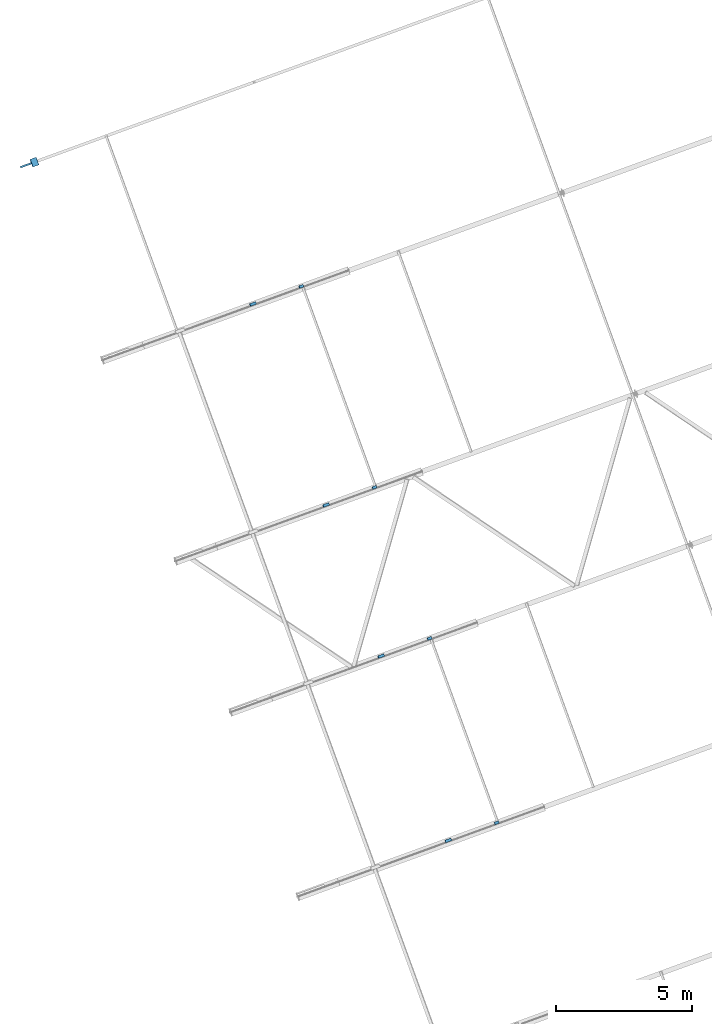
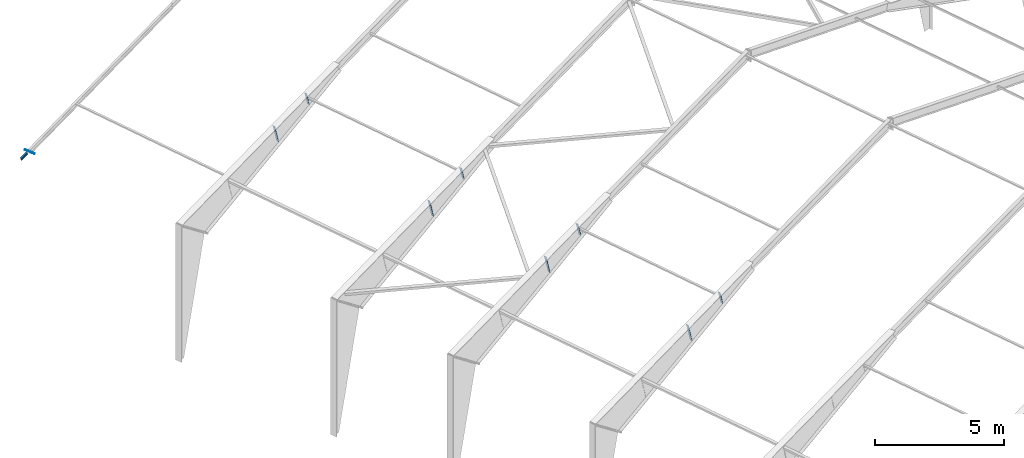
# One storey, part 7 of 17: 10 members, 1 beam, 1 opening, 11 elements without a shape of their own.
"""IFC4 building model written with IfcOpenShell, lengths in millimetres."""

from ifc_helpers import new_model, si_unit, direction, frame, origin_with_axes, place, context, subcontext, project, spatial, line, indexed_curve, outline, extrude, material, element, aggregate, save


model = new_model("IFC4")

# Units and contexts
model_context = context("Model", 3, precision=0.2, world=frame((203566.813, 116264.779, 0.0), z_axis=(0.0, 0.0, 1.0), x_axis=(1.0, 0.0, 0.0)), true_north=direction((-0.9396138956, -0.3422363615)))
body_context = subcontext(model_context, "Body", "Model", "MODEL_VIEW")
ifc_project = project(units=[si_unit("LENGTHUNIT", "METRE", prefix="MILLI"), si_unit("AREAUNIT", "SQUARE_METRE"), si_unit("VOLUMEUNIT", "CUBIC_METRE"), si_unit("MASSUNIT", "GRAM", prefix="KILO"), si_unit("TIMEUNIT", "SECOND"), si_unit("PLANEANGLEUNIT", "RADIAN"), si_unit("SOLIDANGLEUNIT", "STERADIAN"), si_unit("THERMODYNAMICTEMPERATUREUNIT", "DEGREE_CELSIUS"), si_unit("LUMINOUSINTENSITYUNIT", "LUMEN")], contexts=[model_context])

# Site, building, storey
site_placement = place(None, origin_with_axes())
site = spatial("IfcSite", under=ifc_project, at=site_placement, Name="Nobelprojektet", CompositionType="ELEMENT")
building_placement = place(site_placement, origin_with_axes())
building = spatial("IfcBuilding", under=site, at=building_placement, Name="Hall B", CompositionType="ELEMENT")
storey_placement = place(building_placement, frame((0.0, 0.0, 136000.0), z_axis=(0.0, 0.0, 1.0), x_axis=(1.0, 0.0, 0.0)))
storey = spatial("IfcBuildingStorey", under=building, at=storey_placement, Name="Plan_2", CompositionType="ELEMENT", Elevation=136000.0)

# Assembly, member
assembly_1_placement = place(storey_placement, frame((128391.62489, 173652.60022, 3666.07144), z_axis=(0.572008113, 0.2083435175, 0.7933471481), x_axis=(0.7454397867, 0.2715128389, -0.6087694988)))
assembly_1 = element("IfcElementAssembly", 1, at=assembly_1_placement, inside=storey, Name="BEF. STOMME", PredefinedType="NOTDEFINED")
ifc_material = material(Name="S355J2", Category="STEEL")
member_1_placement = place(assembly_1_placement, origin_with_axes())
member_1 = element("IfcMember", 2, at=member_1_placement, material=ifc_material, Name="BEF. STOMME", PredefinedType="NOTDEFINED", context=body_context, shape_type="SolidModel", body=[
    extrude(outline(indexed_curve([(-7.5, -150.0), (7.5, -150.0), (7.5, 150.0), (-7.5, 150.0)], segments=[line(1, 2, 3, 4, 1)])), frame((0.0, 0.0, 0.0), z_axis=(-1.0, 0.0, 0.0), x_axis=(0.0, 0.0, 1.0)), (0.0, 0.0, -1.0), 290.0017),
])
aggregate(assembly_1, [member_1])

assembly_2_placement = place(storey_placement, frame((128400.20356, 173655.72484, 3677.97144), z_axis=(0.572008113, 0.2083435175, 0.7933471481), x_axis=(0.7454397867, 0.2715128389, -0.6087694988)))
assembly_2 = element("IfcElementAssembly", 3, at=assembly_2_placement, inside=storey, Name="BEF. STOMME", PredefinedType="NOTDEFINED")
member_2_placement = place(assembly_2_placement, origin_with_axes())
member_2 = element("IfcMember", 4, at=member_2_placement, material=ifc_material, Name="BEF. STOMME", PredefinedType="NOTDEFINED", context=body_context, shape_type="SolidModel", body=[
    extrude(outline(indexed_curve([(-7.5, -150.0), (7.5, -150.0), (7.5, 150.0), (-7.5, 150.0)], segments=[line(1, 2, 3, 4, 1)])), frame((0.0, 0.0, 0.0), z_axis=(-1.0, 0.0, 0.0), x_axis=(0.0, 0.0, 1.0)), (0.0, 0.0, -1.0), 290.0017),
])
aggregate(assembly_2, [member_2])

# Assembly, beam, voiding feature
assembly_3_placement = place(storey_placement, frame((128000.45311, 173510.13596, 3507.5509), z_axis=(-0.3422371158, 0.9396136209, 1.3e-09), x_axis=(0.9075895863, 0.3305729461, 0.2588487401)))
assembly_3 = element("IfcElementAssembly", 5, at=assembly_3_placement, inside=storey, Name="BEF. STOMME", PredefinedType="NOTDEFINED")
beam_placement = place(assembly_3_placement, origin_with_axes())
beam = element("IfcBeam", 6, at=beam_placement, material=ifc_material, Name="BEF. STOMME", PredefinedType="NOTDEFINED", context=body_context, shape_type="SolidModel", body=[
    extrude(outline(indexed_curve([(-32.0, -60.0), (32.0, -60.0), (32.0, -53.7), (2.2, -53.7), (2.2, 53.7), (32.0, 53.7), (32.0, 60.0), (-32.0, 60.0), (-32.0, 53.7), (-2.2, 53.7), (-2.2, -53.7), (-32.0, -53.7)], segments=[line(1, 2, 3, 4, 5, 6, 7, 8, 9, 10, 11, 12, 1)])), frame((0.0, 0.0, 0.0), z_axis=(-1.0, 0.0, 0.0), x_axis=(0.0, 0.0, 1.0)), (0.0, 0.0, -1.0), 442.3458),
])
voiding_feature_placement = place(beam_placement, frame((410.18513, 60.0, 0.0), z_axis=(0.0, 0.0, -1.0), x_axis=(1.0, 0.0, 0.0)))
element("IfcVoidingFeature", 7, at=voiding_feature_placement, cuts=beam, Name="CUTPART", PredefinedType="HOLE", context=body_context, shape_type="SolidModel", body=[
    extrude(outline(indexed_curve([(0.0, 0.0), (32.16068, 0.0), (32.16068, 120.0)], segments=[line(1, 2, 3, 1)])), frame((0.0, 0.0, 34.5), z_axis=(0.0, 0.0, 1.0), x_axis=(1.0, 0.0, 0.0)), (0.0, 0.0, -1.0), 69.0),
])
aggregate(assembly_3, [beam])

# Assembly, member
assembly_4_placement = place(storey_placement, frame((143798.80343, 148842.37881, 4361.10289), z_axis=(0.9075966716, 0.3305755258, 0.2588206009), x_axis=(-0.2431885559, -0.088576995, 0.9659262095)))
assembly_4 = element("IfcElementAssembly", 8, at=assembly_4_placement, inside=storey, Name="BEF. STOMME", PredefinedType="NOTDEFINED")
member_3_placement = place(assembly_4_placement, origin_with_axes())
member_3 = element("IfcMember", 9, at=member_3_placement, material=ifc_material, Name="BEF. STOMME", PredefinedType="NOTDEFINED", context=body_context, shape_type="SolidModel", body=[
    extrude(outline(indexed_curve([(-7.5, -50.0), (7.5, -50.0), (7.5, 50.0), (-7.5, 50.0)], segments=[line(1, 2, 3, 4, 1)])), frame((0.0, 0.0, 0.0), z_axis=(-1.0, 0.0, 0.0), x_axis=(0.0, 0.0, 1.0)), (0.0, 0.0, -1.0), 883.23799),
])
aggregate(assembly_4, [member_3])

assembly_5_placement = place(storey_placement, frame((145539.81014, 149476.50873, 5134.76285), z_axis=(0.9075966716, 0.3305755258, 0.2588206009), x_axis=(-0.2431885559, -0.088576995, 0.9659262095)))
assembly_5 = element("IfcElementAssembly", 10, at=assembly_5_placement, inside=storey, Name="BEF. STOMME", PredefinedType="NOTDEFINED")
member_4_placement = place(assembly_5_placement, origin_with_axes())
member_4 = element("IfcMember", 11, at=member_4_placement, material=ifc_material, Name="BEF. STOMME", PredefinedType="NOTDEFINED", context=body_context, shape_type="SolidModel", body=[
    extrude(outline(indexed_curve([(-7.5, -50.0), (7.5, -50.0), (7.5, 50.0), (-7.5, 50.0)], segments=[line(1, 2, 3, 4, 1)])), frame((0.0, 0.0, 0.0), z_axis=(-1.0, 0.0, 0.0), x_axis=(0.0, 0.0, 1.0)), (0.0, 0.0, -1.0), 614.49783),
])
aggregate(assembly_5, [member_4])

assembly_6_placement = place(storey_placement, frame((141334.69619, 155607.59688, 4361.10289), z_axis=(0.9075966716, 0.3305755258, 0.2588206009), x_axis=(-0.2431885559, -0.088576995, 0.9659262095)))
assembly_6 = element("IfcElementAssembly", 12, at=assembly_6_placement, inside=storey, Name="BEF. STOMME", PredefinedType="NOTDEFINED")
member_5_placement = place(assembly_6_placement, origin_with_axes())
member_5 = element("IfcMember", 13, at=member_5_placement, material=ifc_material, Name="BEF. STOMME", PredefinedType="NOTDEFINED", context=body_context, shape_type="SolidModel", body=[
    extrude(outline(indexed_curve([(-7.5, -50.0), (7.5, -50.0), (7.5, 50.0), (-7.5, 50.0)], segments=[line(1, 2, 3, 4, 1)])), frame((0.0, 0.0, 0.0), z_axis=(-1.0, 0.0, 0.0), x_axis=(0.0, 0.0, 1.0)), (0.0, 0.0, -1.0), 883.23799),
])
aggregate(assembly_6, [member_5])

assembly_7_placement = place(storey_placement, frame((143075.7029, 156241.7268, 5134.76285), z_axis=(0.9075966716, 0.3305755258, 0.2588206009), x_axis=(-0.2431885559, -0.088576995, 0.9659262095)))
assembly_7 = element("IfcElementAssembly", 14, at=assembly_7_placement, inside=storey, Name="BEF. STOMME", PredefinedType="NOTDEFINED")
member_6_placement = place(assembly_7_placement, origin_with_axes())
member_6 = element("IfcMember", 15, at=member_6_placement, material=ifc_material, Name="BEF. STOMME", PredefinedType="NOTDEFINED", context=body_context, shape_type="SolidModel", body=[
    extrude(outline(indexed_curve([(-7.5, -50.0), (7.5, -50.0), (7.5, 50.0), (-7.5, 50.0)], segments=[line(1, 2, 3, 4, 1)])), frame((0.0, 0.0, 0.0), z_axis=(-1.0, 0.0, 0.0), x_axis=(0.0, 0.0, 1.0)), (0.0, 0.0, -1.0), 614.49783),
])
aggregate(assembly_7, [member_6])

assembly_8_placement = place(storey_placement, frame((139315.49721, 161151.31724, 4361.10289), z_axis=(0.9075966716, 0.3305755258, 0.2588206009), x_axis=(-0.2431885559, -0.088576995, 0.9659262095)))
assembly_8 = element("IfcElementAssembly", 16, at=assembly_8_placement, inside=storey, Name="BEF. STOMME", PredefinedType="NOTDEFINED")
member_7_placement = place(assembly_8_placement, origin_with_axes())
member_7 = element("IfcMember", 17, at=member_7_placement, material=ifc_material, Name="BEF. STOMME", PredefinedType="NOTDEFINED", context=body_context, shape_type="SolidModel", body=[
    extrude(outline(indexed_curve([(-7.5, -50.0), (7.5, -50.0), (7.5, 50.0), (-7.5, 50.0)], segments=[line(1, 2, 3, 4, 1)])), frame((0.0, 0.0, 0.0), z_axis=(-1.0, 0.0, 0.0), x_axis=(0.0, 0.0, 1.0)), (0.0, 0.0, -1.0), 883.23799),
])
aggregate(assembly_8, [member_7])

assembly_9_placement = place(storey_placement, frame((141056.50391, 161785.44716, 5134.76285), z_axis=(0.9075966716, 0.3305755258, 0.2588206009), x_axis=(-0.2431885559, -0.088576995, 0.9659262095)))
assembly_9 = element("IfcElementAssembly", 18, at=assembly_9_placement, inside=storey, Name="BEF. STOMME", PredefinedType="NOTDEFINED")
member_8_placement = place(assembly_9_placement, origin_with_axes())
member_8 = element("IfcMember", 19, at=member_8_placement, material=ifc_material, Name="BEF. STOMME", PredefinedType="NOTDEFINED", context=body_context, shape_type="SolidModel", body=[
    extrude(outline(indexed_curve([(-7.5, -50.0), (7.5, -50.0), (7.5, 50.0), (-7.5, 50.0)], segments=[line(1, 2, 3, 4, 1)])), frame((0.0, 0.0, 0.0), z_axis=(-1.0, 0.0, 0.0), x_axis=(0.0, 0.0, 1.0)), (0.0, 0.0, -1.0), 614.49783),
])
aggregate(assembly_9, [member_8])

assembly_10_placement = place(storey_placement, frame((136628.93585, 168527.28416, 4361.10289), z_axis=(0.9075966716, 0.3305755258, 0.2588206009), x_axis=(-0.2431885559, -0.088576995, 0.9659262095)))
assembly_10 = element("IfcElementAssembly", 20, at=assembly_10_placement, inside=storey, Name="BEF. STOMME", PredefinedType="NOTDEFINED")
member_9_placement = place(assembly_10_placement, origin_with_axes())
member_9 = element("IfcMember", 21, at=member_9_placement, material=ifc_material, Name="BEF. STOMME", PredefinedType="NOTDEFINED", context=body_context, shape_type="SolidModel", body=[
    extrude(outline(indexed_curve([(-7.5, -50.0), (7.5, -50.0), (7.5, 50.0), (-7.5, 50.0)], segments=[line(1, 2, 3, 4, 1)])), frame((0.0, 0.0, 0.0), z_axis=(-1.0, 0.0, 0.0), x_axis=(0.0, 0.0, 1.0)), (0.0, 0.0, -1.0), 883.23799),
])
aggregate(assembly_10, [member_9])

assembly_11_placement = place(storey_placement, frame((138369.94255, 169161.41409, 5134.76285), z_axis=(0.9075966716, 0.3305755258, 0.2588206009), x_axis=(-0.2431885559, -0.088576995, 0.9659262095)))
assembly_11 = element("IfcElementAssembly", 22, at=assembly_11_placement, inside=storey, Name="BEF. STOMME", PredefinedType="NOTDEFINED")
member_10_placement = place(assembly_11_placement, origin_with_axes())
member_10 = element("IfcMember", 23, at=member_10_placement, material=ifc_material, Name="BEF. STOMME", PredefinedType="NOTDEFINED", context=body_context, shape_type="SolidModel", body=[
    extrude(outline(indexed_curve([(-7.5, -50.0), (7.5, -50.0), (7.5, 50.0), (-7.5, 50.0)], segments=[line(1, 2, 3, 4, 1)])), frame((0.0, 0.0, 0.0), z_axis=(-1.0, 0.0, 0.0), x_axis=(0.0, 0.0, 1.0)), (0.0, 0.0, -1.0), 614.49783),
])
aggregate(assembly_11, [member_10])

save(model, "model.ifc")
